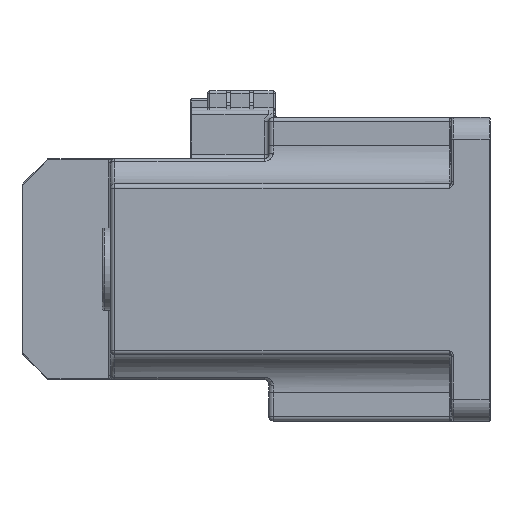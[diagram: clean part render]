
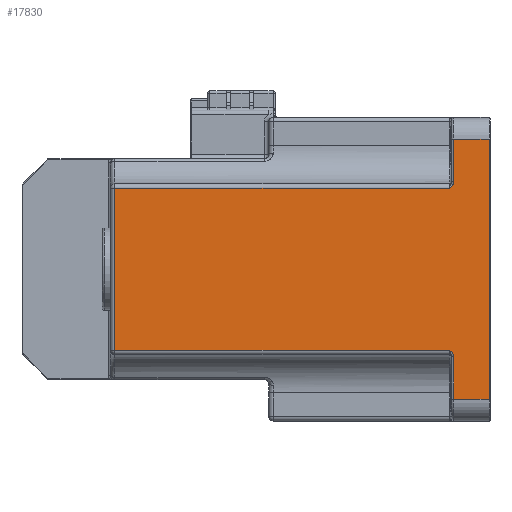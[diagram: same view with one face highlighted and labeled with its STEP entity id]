
A CAD part, left-side view. The second image highlights one B-rep face of the part: STEP entity #17830.
In plain terms, the highlighted planar face has unit normal (-1, 0, 0).
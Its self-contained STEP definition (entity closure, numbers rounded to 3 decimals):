
#297 = ORIENTED_EDGE ( 'NONE', *, *, #41099, .T. ) ;
#644 = CARTESIAN_POINT ( 'NONE',  ( -52., 8.4, 20.114 ) ) ;
#722 = DIRECTION ( 'NONE',  ( 1., 0., 0. ) ) ;
#839 = EDGE_CURVE ( 'NONE', #16680, #11102, #49831, .T. ) ;
#902 = VECTOR ( 'NONE', #39648, 1000. ) ;
#1619 = CARTESIAN_POINT ( 'NONE',  ( -52., 9.4, 18.7 ) ) ;
#1686 = ORIENTED_EDGE ( 'NONE', *, *, #38639, .T. ) ;
#2050 = CARTESIAN_POINT ( 'NONE',  ( -52., 8.4, 18.7 ) ) ;
#2575 = CARTESIAN_POINT ( 'NONE',  ( -52., 8.622, 19.402 ) ) ;
#3767 = CARTESIAN_POINT ( 'NONE',  ( -52., 9.4, -18.7 ) ) ;
#4269 = LINE ( 'NONE', #6151, #26254 ) ;
#4902 = DIRECTION ( 'NONE',  ( 0., 0., -1. ) ) ;
#5349 = EDGE_CURVE ( 'NONE', #6769, #28687, #53471, .T. ) ;
#5553 = CARTESIAN_POINT ( 'NONE',  ( -52., 9.4, -18.7 ) ) ;
#5883 = DIRECTION ( 'NONE',  ( 0., 0., -1. ) ) ;
#6151 = CARTESIAN_POINT ( 'NONE',  ( -52., 0.2, -35. ) ) ;
#6769 = VERTEX_POINT ( 'NONE', #1619 ) ;
#7049 = DIRECTION ( 'NONE',  ( 0., 0., -1. ) ) ;
#7400 = CARTESIAN_POINT ( 'NONE',  ( -52., 86.5, -19.7 ) ) ;
#7551 = CARTESIAN_POINT ( 'NONE',  ( -52., 8.542, -19.532 ) ) ;
#7649 = ORIENTED_EDGE ( 'NONE', *, *, #839, .T. ) ;
#8295 = CARTESIAN_POINT ( 'NONE',  ( -52., 8.4, 30. ) ) ;
#8723 = LINE ( 'NONE', #39328, #50056 ) ;
#9789 = ORIENTED_EDGE ( 'NONE', *, *, #5349, .T. ) ;
#10056 = CARTESIAN_POINT ( 'NONE',  ( -52., 8.4, -35. ) ) ;
#10555 = CARTESIAN_POINT ( 'NONE',  ( -52., 9.4, 18.7 ) ) ;
#11102 = VERTEX_POINT ( 'NONE', #17002 ) ;
#11118 = VECTOR ( 'NONE', #43916, 1000. ) ;
#11453 = EDGE_CURVE ( 'NONE', #11102, #27702, #4269, .T. ) ;
#12110 = EDGE_CURVE ( 'NONE', #37495, #12490, #8723, .T. ) ;
#12490 = VERTEX_POINT ( 'NONE', #5553 ) ;
#13390 = DIRECTION ( 'NONE',  ( 0., -1., 0. ) ) ;
#14375 = DIRECTION ( 'NONE',  ( 0., 1., 0. ) ) ;
#14685 = CARTESIAN_POINT ( 'NONE',  ( -52., 86.5, -18.7 ) ) ;
#14958 = LINE ( 'NONE', #2050, #11118 ) ;
#16680 = VERTEX_POINT ( 'NONE', #49909 ) ;
#17002 = CARTESIAN_POINT ( 'NONE',  ( -52., 0.2, -30. ) ) ;
#17345 = CARTESIAN_POINT ( 'NONE',  ( -52., 87.5, -35. ) ) ;
#17830 = ADVANCED_FACE ( 'NONE', ( #26099 ), #21335, .F. ) ;
#18089 = DIRECTION ( 'NONE',  ( 0., 0., 1. ) ) ;
#18489 = CARTESIAN_POINT ( 'NONE',  ( -52., 8.431, 19.813 ) ) ;
#21106 = EDGE_CURVE ( 'NONE', #36940, #16680, #48420, .T. ) ;
#21335 = PLANE ( 'NONE',  #32401 ) ;
#26086 = CARTESIAN_POINT ( 'NONE',  ( -52., 8.4, 20.114 ) ) ;
#26099 = FACE_OUTER_BOUND ( 'NONE', #38207, .T. ) ;
#26254 = VECTOR ( 'NONE', #18089, 1000. ) ;
#26534 = CARTESIAN_POINT ( 'NONE',  ( -52., 0.2, 30. ) ) ;
#26573 = CARTESIAN_POINT ( 'NONE',  ( -52., 86.5, 18.7 ) ) ;
#27081 = B_SPLINE_CURVE_WITH_KNOTS ( 'NONE', 3,
 ( #3767, #27977, #36238, #28156, #7551, #53040, #49073, #53218 ),
 .UNSPECIFIED., .F., .F.,
 ( 4, 2, 2, 4 ),
 ( 0., 0.001, 0.001, 0.002 ),
 .UNSPECIFIED. ) ;
#27702 = VERTEX_POINT ( 'NONE', #26534 ) ;
#27977 = CARTESIAN_POINT ( 'NONE',  ( -52., 9.154, -18.874 ) ) ;
#28156 = CARTESIAN_POINT ( 'NONE',  ( -52., 8.622, -19.402 ) ) ;
#28687 = VERTEX_POINT ( 'NONE', #26573 ) ;
#28810 = ORIENTED_EDGE ( 'NONE', *, *, #39197, .T. ) ;
#29784 = EDGE_CURVE ( 'NONE', #48847, #6769, #34652, .T. ) ;
#29844 = VECTOR ( 'NONE', #13390, 1000. ) ;
#31506 = VECTOR ( 'NONE', #14375, 1000. ) ;
#32107 = DIRECTION ( 'NONE',  ( 0., -1., 0. ) ) ;
#32401 = AXIS2_PLACEMENT_3D ( 'NONE', #17345, #722, #4902 ) ;
#32585 = LINE ( 'NONE', #7400, #45549 ) ;
#33243 = VERTEX_POINT ( 'NONE', #8295 ) ;
#33341 = ORIENTED_EDGE ( 'NONE', *, *, #42676, .T. ) ;
#34424 = CARTESIAN_POINT ( 'NONE',  ( -52., 87.5, 30. ) ) ;
#34652 = B_SPLINE_CURVE_WITH_KNOTS ( 'NONE', 3,
 ( #26086, #50815, #18489, #35055, #2575, #51871, #39569, #10555 ),
 .UNSPECIFIED., .F., .F.,
 ( 4, 2, 2, 4 ),
 ( 0., 0., 0.001, 0.002 ),
 .UNSPECIFIED. ) ;
#35055 = CARTESIAN_POINT ( 'NONE',  ( -52., 8.542, 19.532 ) ) ;
#35209 = ORIENTED_EDGE ( 'NONE', *, *, #12110, .T. ) ;
#35805 = LINE ( 'NONE', #34424, #902 ) ;
#36238 = CARTESIAN_POINT ( 'NONE',  ( -52., 8.907, -19.052 ) ) ;
#36940 = VERTEX_POINT ( 'NONE', #48318 ) ;
#37168 = ORIENTED_EDGE ( 'NONE', *, *, #11453, .T. ) ;
#37495 = VERTEX_POINT ( 'NONE', #14685 ) ;
#38207 = EDGE_LOOP ( 'NONE', ( #7649, #37168, #1686, #297, #42202, #9789, #28810, #35209, #33341, #44371 ) ) ;
#38639 = EDGE_CURVE ( 'NONE', #27702, #33243, #35805, .T. ) ;
#38730 = VECTOR ( 'NONE', #5883, 1000. ) ;
#39197 = EDGE_CURVE ( 'NONE', #28687, #37495, #32585, .T. ) ;
#39328 = CARTESIAN_POINT ( 'NONE',  ( -52., 87.5, -18.7 ) ) ;
#39569 = CARTESIAN_POINT ( 'NONE',  ( -52., 9.155, 18.873 ) ) ;
#39648 = DIRECTION ( 'NONE',  ( 0., 1., 0. ) ) ;
#41099 = EDGE_CURVE ( 'NONE', #33243, #48847, #14958, .T. ) ;
#42202 = ORIENTED_EDGE ( 'NONE', *, *, #29784, .T. ) ;
#42676 = EDGE_CURVE ( 'NONE', #12490, #36940, #27081, .T. ) ;
#43916 = DIRECTION ( 'NONE',  ( 0., 0., -1. ) ) ;
#44371 = ORIENTED_EDGE ( 'NONE', *, *, #21106, .T. ) ;
#45549 = VECTOR ( 'NONE', #7049, 1000. ) ;
#47079 = CARTESIAN_POINT ( 'NONE',  ( -52., 87.5, 18.7 ) ) ;
#48318 = CARTESIAN_POINT ( 'NONE',  ( -52., 8.4, -20.114 ) ) ;
#48420 = LINE ( 'NONE', #10056, #38730 ) ;
#48847 = VERTEX_POINT ( 'NONE', #644 ) ;
#49073 = CARTESIAN_POINT ( 'NONE',  ( -52., 8.4, -19.962 ) ) ;
#49821 = CARTESIAN_POINT ( 'NONE',  ( -52., 87.5, -30. ) ) ;
#49831 = LINE ( 'NONE', #49821, #29844 ) ;
#49909 = CARTESIAN_POINT ( 'NONE',  ( -52., 8.4, -30. ) ) ;
#50056 = VECTOR ( 'NONE', #32107, 1000. ) ;
#50815 = CARTESIAN_POINT ( 'NONE',  ( -52., 8.4, 19.962 ) ) ;
#51871 = CARTESIAN_POINT ( 'NONE',  ( -52., 8.907, 19.052 ) ) ;
#53040 = CARTESIAN_POINT ( 'NONE',  ( -52., 8.431, -19.813 ) ) ;
#53218 = CARTESIAN_POINT ( 'NONE',  ( -52., 8.4, -20.114 ) ) ;
#53471 = LINE ( 'NONE', #47079, #31506 ) ;
